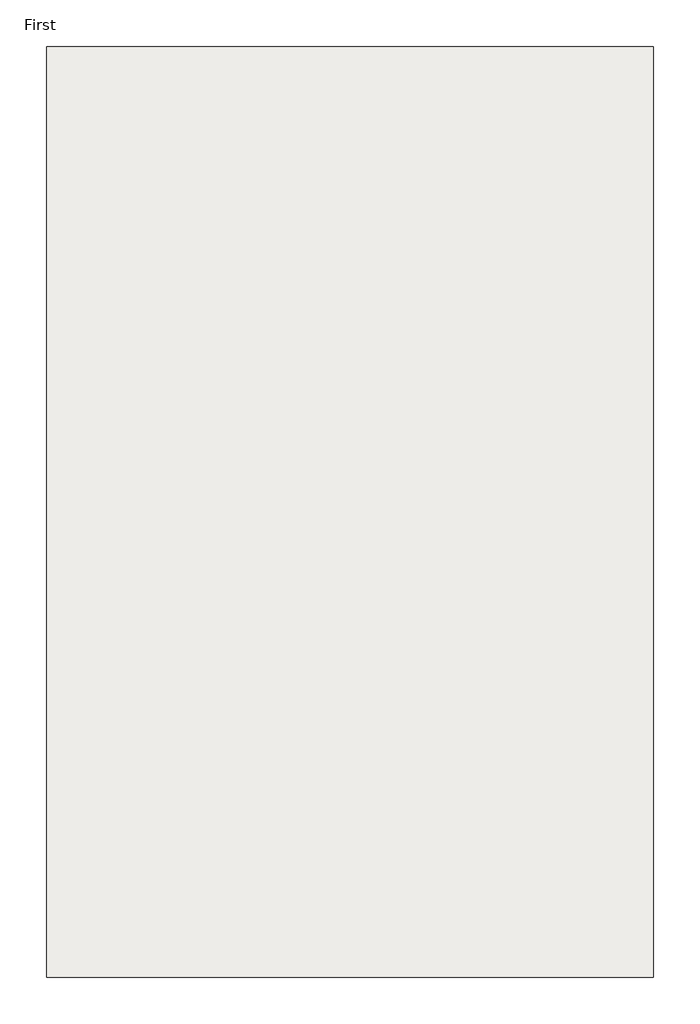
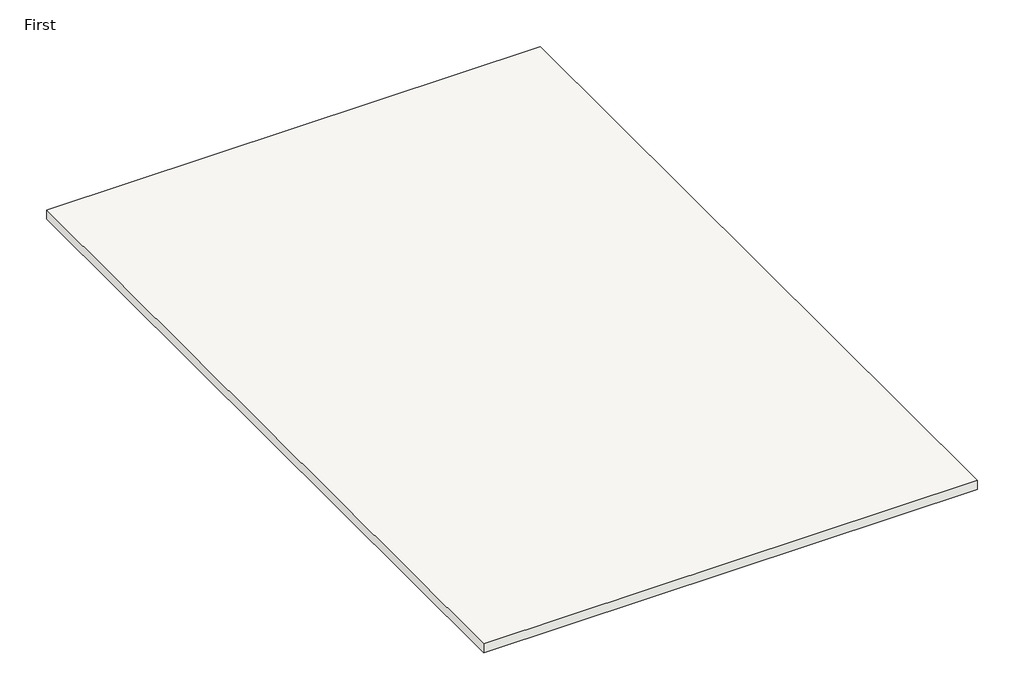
# One storey: 1 slab.
"""IFC4 building model written with IfcOpenShell, lengths in millimetres."""

from ifc_helpers import new_model, si_unit, frame, origin, place, context, project, spatial, polyline, outline, extrude, element, save

model = new_model("IFC4")

# Units and contexts
model_context = context("Model", 3, world=origin())
ifc_project = project(units=[si_unit("LENGTHUNIT", "METRE", prefix="MILLI")], contexts=[model_context])

# Site, building, storey
site = spatial("IfcSite", under=ifc_project)
building = spatial("IfcBuilding", under=site)
storey = spatial("IfcBuildingStorey", under=building, Name="First", Elevation=3048.0)

# Slab
placement = place(None, origin())
element("IfcSlab", 1, ObjectType="Concrete Slab - 6\"", at=placement, inside=storey, context=model_context, shape_type="SweptSolid", body=[
    extrude(outline(polyline([(7527.855674, 20545.8546638), (7527.855674, 8633.2546638), (-241.369326, 8633.2546638), (-241.369326, 20545.8546638), (7527.855674, 20545.8546638)])), frame((0.0, 0.0, 2895.6), z_axis=(0.0, 0.0, 1.0), x_axis=(1.0, 0.0, 0.0)), (0.0, 0.0, 1.0), 152.4),
])

save(model, "model.ifc")
